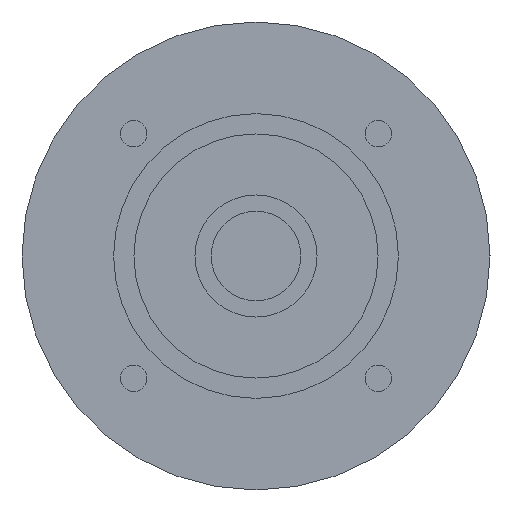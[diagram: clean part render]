
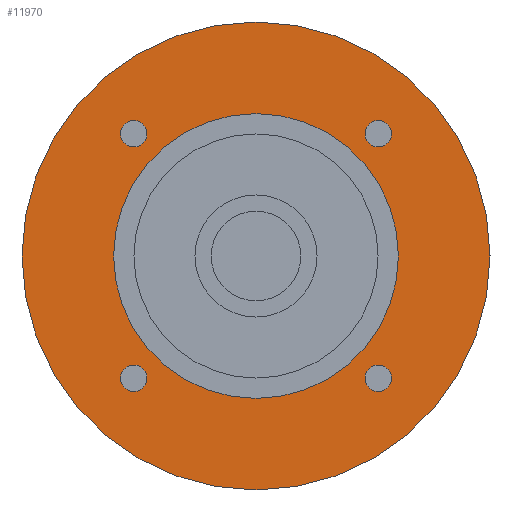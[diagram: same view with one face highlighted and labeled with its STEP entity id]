
A CAD part, left-side view. The second image highlights one B-rep face of the part: STEP entity #11970.
In plain terms, the highlighted planar face has unit normal (-1, 0, 0) as drawn and (0, 0, -1) by its records, which use the part's own axes.
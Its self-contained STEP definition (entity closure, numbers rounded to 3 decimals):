
#10800=CARTESIAN_POINT('',(57.5,0.,-65.601));
#10810=VERTEX_POINT('',#10800);
#10840=CARTESIAN_POINT('',(0.,0.,
-65.601));
#10850=DIRECTION('',(0.,0.,-1.));
#10860=DIRECTION('',(0.,-1.,0.));
#10870=AXIS2_PLACEMENT_3D('',#10840,#10850,#10860);
#10880=CIRCLE('',#10870,57.5);
#10890=CARTESIAN_POINT('',(0.,-57.5,-65.601));
#10900=VERTEX_POINT('',#10890);
#10910=EDGE_CURVE('',#10810,#10900,#10880,.T.);
#10930=CARTESIAN_POINT('',(-57.5,0.,-65.601));
#10940=VERTEX_POINT('',#10930);
#10950=EDGE_CURVE('',#10900,#10940,#10880,.T.);
#11070=CARTESIAN_POINT('',(0.,0.,
-65.601));
#11080=DIRECTION('',(0.,0.,-1.));
#11090=DIRECTION('',(1.,0.,0.));
#11100=AXIS2_PLACEMENT_3D('',#11070,#11080,#11090);
#11110=PLANE('',#11100);
#11120=CARTESIAN_POINT('',(30.052,30.052,-65.601));
#11130=DIRECTION('',(0.,0.,-1.));
#11140=DIRECTION('',(0.,1.,0.));
#11150=AXIS2_PLACEMENT_3D('',#11120,#11130,#11140);
#11160=CIRCLE('',#11150,3.25);
#11170=CARTESIAN_POINT('',(30.052,33.302,-65.601));
#11180=VERTEX_POINT('',#11170);
#11190=CARTESIAN_POINT('',(30.052,26.802,-65.601));
#11200=VERTEX_POINT('',#11190);
#11210=EDGE_CURVE('',#11180,#11200,#11160,.T.);
#11220=ORIENTED_EDGE('',*,*,#11210,.F.);
#11230=EDGE_CURVE('',#11200,#11180,#11160,.T.);
#11240=ORIENTED_EDGE('',*,*,#11230,.F.);
#11250=EDGE_LOOP('',(#11240,#11220));
#11260=FACE_BOUND('',#11250,.T.);
#11270=CARTESIAN_POINT('',(-30.052,30.052,-65.601));
#11280=DIRECTION('',(0.,0.,-1.));
#11290=DIRECTION('',(-1.,0.,0.));
#11300=AXIS2_PLACEMENT_3D('',#11270,#11280,#11290);
#11310=CIRCLE('',#11300,3.25);
#11320=CARTESIAN_POINT('',(-33.302,30.052,-65.601));
#11330=VERTEX_POINT('',#11320);
#11340=CARTESIAN_POINT('',(-26.802,30.052,-65.601));
#11350=VERTEX_POINT('',#11340);
#11360=EDGE_CURVE('',#11330,#11350,#11310,.T.);
#11370=ORIENTED_EDGE('',*,*,#11360,.F.);
#11380=EDGE_CURVE('',#11350,#11330,#11310,.T.);
#11390=ORIENTED_EDGE('',*,*,#11380,.F.);
#11400=EDGE_LOOP('',(#11390,#11370));
#11410=FACE_BOUND('',#11400,.T.);
#11420=CARTESIAN_POINT('',(-30.052,-30.052,-65.601))
;
#11430=DIRECTION('',(0.,0.,-1.));
#11440=DIRECTION('',(0.,-1.,0.));
#11450=AXIS2_PLACEMENT_3D('',#11420,#11430,#11440);
#11460=CIRCLE('',#11450,3.25);
#11470=CARTESIAN_POINT('',(-30.052,-33.302,-65.601))
;
#11480=VERTEX_POINT('',#11470);
#11490=CARTESIAN_POINT('',(-30.052,-26.802,-65.601))
;
#11500=VERTEX_POINT('',#11490);
#11510=EDGE_CURVE('',#11480,#11500,#11460,.T.);
#11520=ORIENTED_EDGE('',*,*,#11510,.F.);
#11530=EDGE_CURVE('',#11500,#11480,#11460,.T.);
#11540=ORIENTED_EDGE('',*,*,#11530,.F.);
#11550=EDGE_LOOP('',(#11540,#11520));
#11560=FACE_BOUND('',#11550,.T.);
#11570=CARTESIAN_POINT('',(0.,0.,
-65.601));
#11580=DIRECTION('',(0.,0.,1.));
#11590=DIRECTION('',(0.,1.,0.));
#11600=AXIS2_PLACEMENT_3D('',#11570,#11580,#11590);
#11610=CIRCLE('',#11600,35.);
#11620=CARTESIAN_POINT('',(-35.,0.,-65.601));
#11630=VERTEX_POINT('',#11620);
#11640=CARTESIAN_POINT('',(35.,0.,-65.601));
#11650=VERTEX_POINT('',#11640);
#11660=EDGE_CURVE('',#11630,#11650,#11610,.T.);
#11670=ORIENTED_EDGE('',*,*,#11660,.T.);
#11680=CARTESIAN_POINT('',(0.,35.,-65.601));
#11690=VERTEX_POINT('',#11680);
#11700=EDGE_CURVE('',#11690,#11630,#11610,.T.);
#11710=ORIENTED_EDGE('',*,*,#11700,.T.);
#11720=EDGE_CURVE('',#11650,#11690,#11610,.T.);
#11730=ORIENTED_EDGE('',*,*,#11720,.T.);
#11740=EDGE_LOOP('',(#11730,#11710,#11670));
#11750=FACE_BOUND('',#11740,.T.);
#11760=CARTESIAN_POINT('',(30.052,-30.052,-65.601));
#11770=DIRECTION('',(0.,0.,-1.));
#11780=DIRECTION('',(1.,0.,0.));
#11790=AXIS2_PLACEMENT_3D('',#11760,#11770,#11780);
#11800=CIRCLE('',#11790,3.25);
#11810=CARTESIAN_POINT('',(33.302,-30.052,-65.601));
#11820=VERTEX_POINT('',#11810);
#11830=CARTESIAN_POINT('',(26.802,-30.052,-65.601));
#11840=VERTEX_POINT('',#11830);
#11850=EDGE_CURVE('',#11820,#11840,#11800,.T.);
#11860=ORIENTED_EDGE('',*,*,#11850,.F.);
#11870=EDGE_CURVE('',#11840,#11820,#11800,.T.);
#11880=ORIENTED_EDGE('',*,*,#11870,.F.);
#11890=EDGE_LOOP('',(#11880,#11860));
#11900=FACE_BOUND('',#11890,.T.);
#11910=EDGE_CURVE('',#10940,#10810,#10880,.T.);
#11920=ORIENTED_EDGE('',*,*,#11910,.T.);
#11930=ORIENTED_EDGE('',*,*,#10950,.T.);
#11940=ORIENTED_EDGE('',*,*,#10910,.T.);
#11950=EDGE_LOOP('',(#11940,#11930,#11920));
#11960=FACE_OUTER_BOUND('',#11950,.T.);
#11970=ADVANCED_FACE('',(#11260,#11410,#11560,#11750,#11900,#11960),
#11110,.T.);
